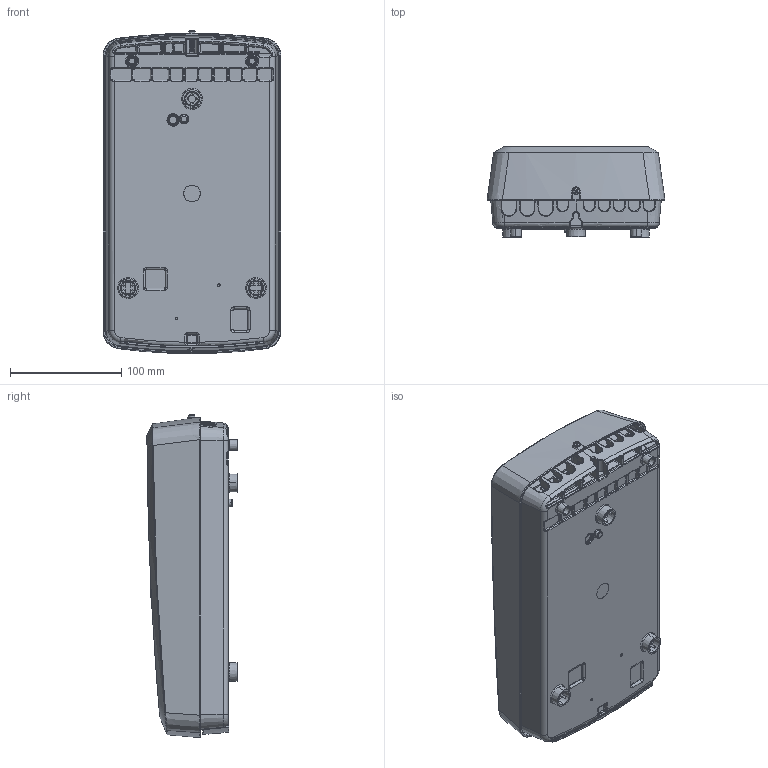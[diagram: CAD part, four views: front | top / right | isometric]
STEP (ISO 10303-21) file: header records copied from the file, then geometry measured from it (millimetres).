
FILE_DESCRIPTION (( 'STEP AP203' ), '1' );
FILE_NAME ('Kunde_Gehäusee-RDC 2020.STEP', '2020-02-06T09:52:11', ( '' ), ( '' ), 'SwSTEP 2.0', 'SolidWorks 2019', '' );
FILE_SCHEMA (( 'CONFIG_CONTROL_DESIGN' ));
Products named in the file (1): Kunde_Gehäusee-RDC 2020
Bounding box: 159.85 x 80.98 x 290.47 mm (x, y, z)
Volume: 2533631.7 mm3; surface area: 343113.7 mm2
Topology: 5 solids, 23 shells, 3750 faces, 9522 edges, 5846 vertices
Faces by surface type: bspline 1285, plane 1070, cylinder 987, cone 172, torus 157, sphere 79
Entity records: 170285 total; most frequent: CARTESIAN_POINT 92558, ORIENTED_EDGE 18932, DIRECTION 12193, EDGE_CURVE 9466, VERTEX_POINT 5846, AXIS2_PLACEMENT_3D 4320, EDGE_LOOP 3840, ADVANCED_FACE 3750
